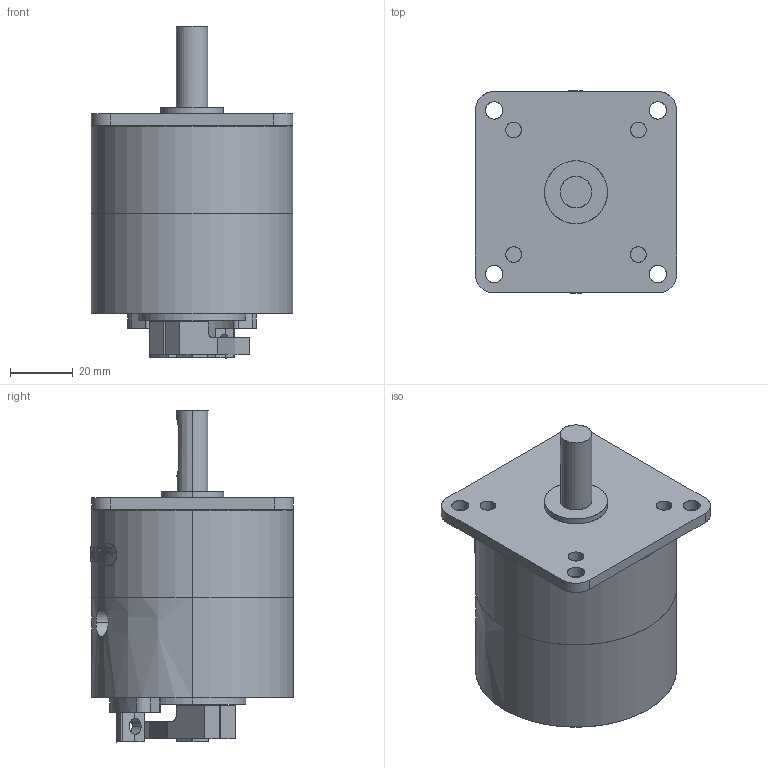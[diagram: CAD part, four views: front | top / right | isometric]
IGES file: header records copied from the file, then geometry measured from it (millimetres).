
Start section: SolidWorks IGES file using analytic representation for surfaces
Global section: file name: C:\Users\Chieh_Lu\Dropbox\¤u§@«Ç\PRO\PROA30S-D\PROA30S-D-#-#\PRO30D-#-#-P.IGS; native system: SolidWorks 2014; preprocessor: SolidWorks 2014; author: Chieh_Lu; date: 150801.213923; units: millimetre
Bounding box: 64 x 64.3 x 105.5 mm (x, y, z)
Surface area: 46687.1 mm2 (no closed solid volume)
Topology: 0 solids, 0 shells, 380 faces, 6203 edges, 6199 vertices
Faces by surface type: revolution 191, bspline 189
